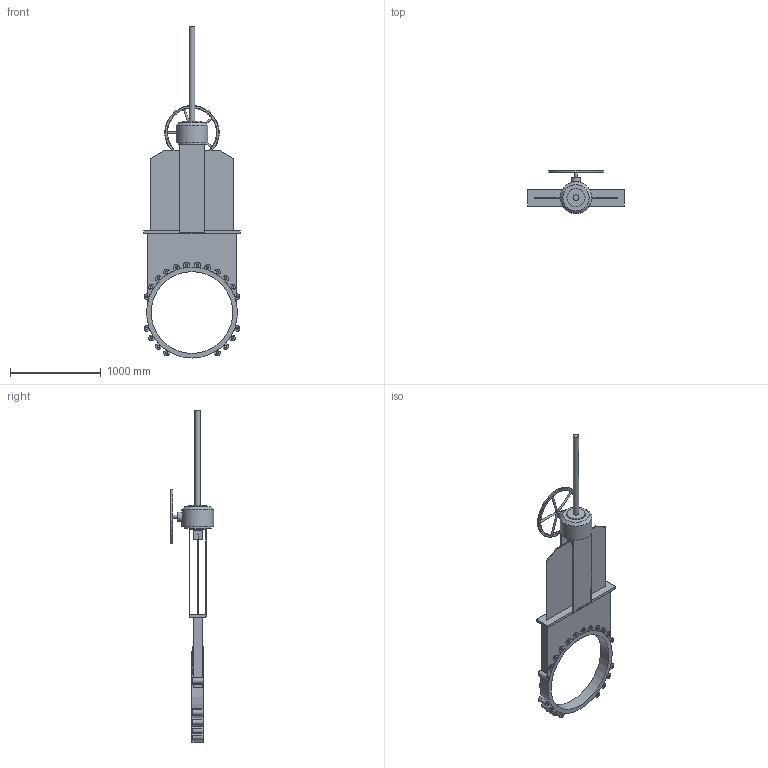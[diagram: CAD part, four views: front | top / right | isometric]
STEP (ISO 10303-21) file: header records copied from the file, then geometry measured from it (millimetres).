
FILE_DESCRIPTION(('STEP AP203'), '1');
FILE_NAME('Çàäâèæêà øèáåðíàÿ K21GV DN900 ðåäóêòîð+âûäâèæíîé øïèíäåëü', '', ('UNSPECIFIED'), ('UNSPECIFIED'), 'ASCON STEP Converter 1.6', 'ASCON Math Kernel', '');
FILE_SCHEMA(('CONFIG_CONTROL_DESIGN'));
Length unit declared in the file: millimetre
Bounding box: 1060 x 475 x 3655.5 mm (x, y, z)
Volume: 114964845.4 mm3; surface area: 6302929.5 mm2
Topology: 1 solids, 1 shells, 304 faces, 816 edges, 519 vertices
Faces by surface type: plane 160, cylinder 95, cone 41, torus 8
Full cylindrical faces by diameter (mm): 20 x5, 26.211 x40, 30 x1, 60 x2, 100 x1, 200 x1, 300 x1, 350 x1, 600 x1, 900 x1, 1001 x1
Entity records: 13330 total; most frequent: CARTESIAN_POINT 3787, DIRECTION 1502, ORIENTED_EDGE 1352, EDGE_CURVE 676, AXIS2_PLACEMENT_3D 568, VERTEX_POINT 479, EDGE_LOOP 425, LINE 366
